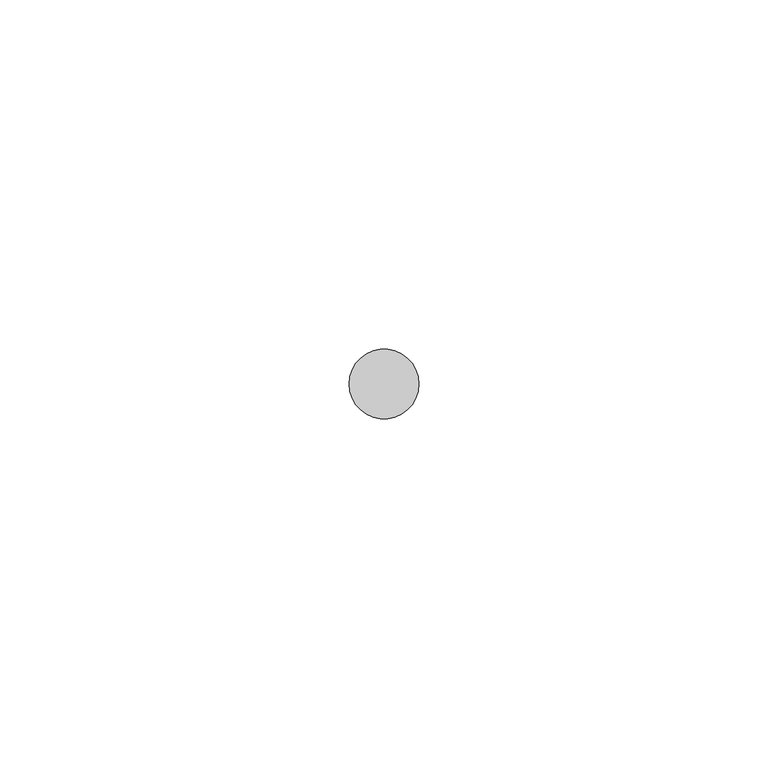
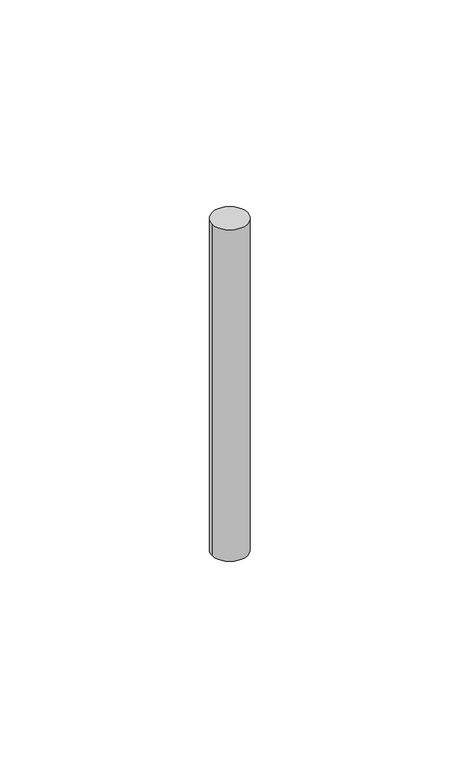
"""IFC4 building model written with IfcOpenShell, lengths in millimetres: pipe fitting geometry, СТ_Вл-3D_Подсчет_Шпилька : СТ_Вл-3D_Подсчет_Шпилька."""

from ifc_helpers import new_model, si_unit, point, origin, origin_with_axes, origin_2d, place, context, project, spatial, circle_curve, trimmed, segment, composite_curve, outline, extrude, source, transform, mapped, element, save


def pipe_fitting_7255cf2c(model_context):
    return source(origin(), model_context, "Body", "SweptSolid", [
        extrude(outline(composite_curve([segment(trimmed(circle_curve(origin_2d(), 5.0), [point((-5.0, 0.0))], [point((5.0, 0.0))], False, "CARTESIAN"), True, "CONTINUOUS"), segment(trimmed(circle_curve(origin_2d(), 5.0), [point((5.0, 0.0))], [point((-5.0, 0.0))], False, "CARTESIAN"), True, "CONTINUOUS")], self_intersect=False)), origin_with_axes(), (0.0, 0.0, 1.0), 100.0),
    ])


if __name__ == "__main__":
    model = new_model("IFC4")
    model_context = context("Model", 3, world=origin())
    ifc_project = project(units=[si_unit("LENGTHUNIT", "METRE", prefix="MILLI")], contexts=[model_context])
    site = spatial("IfcSite", under=ifc_project)
    building = spatial("IfcBuilding", under=site)
    placement = place(None, origin())
    pipe_fitting_shape = pipe_fitting_7255cf2c(model_context)
    element("IfcPipeFitting", 1, ObjectType="СТ_Вл-3D_Подсчет_Шпилька : СТ_Вл-3D_Подсчет_Шпилька", at=placement, inside=building, context=model_context, shape_type="MappedRepresentation", body=[
        mapped(pipe_fitting_shape, transform((0.0, 0.0, 0.0), x_axis=(1.0, 0.0, 0.0), y_axis=(0.0, 1.0, 0.0), z_axis=(0.0, 0.0, 1.0))),
    ])
    save(model, "model.ifc")
